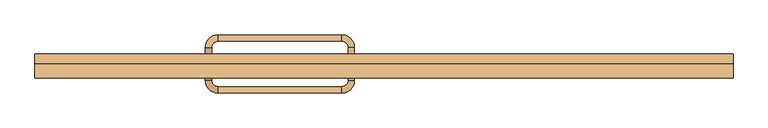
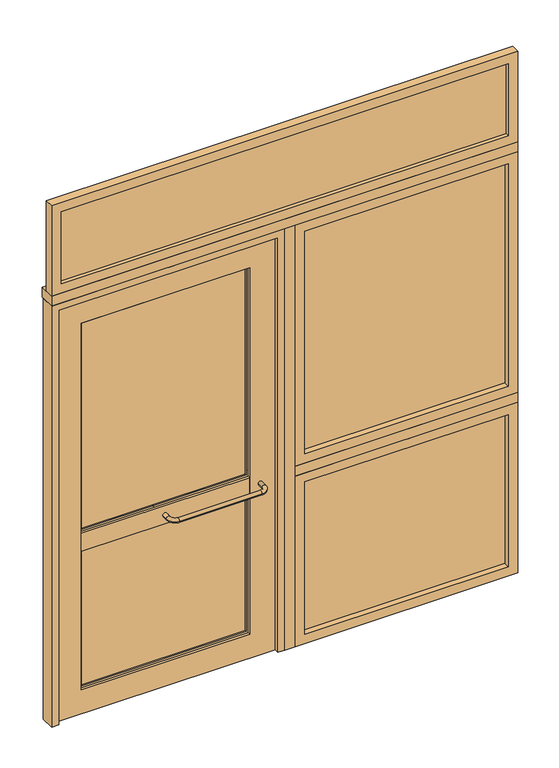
"""IFC4 building model written with IfcOpenShell, lengths in millimetres: door geometry, A2 Puerta batiente exterior con panel lateral VF superior : A2.1 Puerta batiente exterior con panel lateral 220x260."""

from ifc_helpers import new_model, si_unit, point, frame, origin, origin_with_axes, place, context, project, spatial, polyline, circle_curve, ellipse_curve, trimmed, outline, extrude, source, transform, mapped, element, save
from ifc_brep_helpers import plane_surface, cylinder_surface, revolved_surface, advanced_brep


def door_f8b2c67e(model_context):
    return source(origin(), model_context, "Body", "SolidModel", [
        advanced_brep(
        [(-113.0, 33.0, 855.0), (-93.0, 33.0, 855.0), (-93.0, 63.0, 855.0), (-113.0, 63.0, 855.0), (-133.0, 83.0, 855.0), (-133.0, 103.0, 855.0), (-523.0, 103.0, 855.0), (-523.0, 83.0, 855.0), (-543.0, 63.0, 855.0), (-563.0, 63.0, 855.0), (-543.0, 33.0, 855.0), (-563.0, 33.0, 855.0)],
        [
            (0, 1, circle_curve(frame((-103.0, 33.0, 855.0), z_axis=(0.0, -1.0, 0.0), x_axis=(1.0, 0.0, 0.0)), 10.0)),
            (1, 0, circle_curve(frame((-103.0, 33.0, 855.0), z_axis=(0.0, -1.0, 0.0), x_axis=(1.0, 0.0, 0.0)), 10.0)),
            (1, 2),
            (2, 3, circle_curve(frame((-103.0, 63.0, 855.0), z_axis=(0.0, -1.0, 0.0), x_axis=(1.0, 0.0, 0.0)), 10.0)),
            (3, 0),
            (3, 2, circle_curve(frame((-103.0, 63.0, 855.0), z_axis=(0.0, -1.0, 0.0), x_axis=(1.0, 0.0, 0.0)), 10.0)),
            (4, 3, circle_curve(frame((-133.0, 63.0, 855.0), z_axis=(0.0, 0.0, -1.0), x_axis=(1.0, 0.0, 0.0)), 20.0)),
            (2, 5, circle_curve(frame((-133.0, 63.0, 855.0), z_axis=(0.0, 0.0, 1.0), x_axis=(1.0, 0.0, 0.0)), 40.0)),
            (5, 4, circle_curve(frame((-133.0, 93.0, 855.0), z_axis=(1.0, 0.0, 0.0), x_axis=(0.0, 1.0, 0.0)), 10.0)),
            (4, 5, circle_curve(frame((-133.0, 93.0, 855.0), z_axis=(1.0, 0.0, 0.0), x_axis=(0.0, 1.0, 0.0)), 10.0)),
            (5, 6),
            (6, 7, circle_curve(frame((-523.0, 93.0, 855.0), z_axis=(1.0, 0.0, 0.0), x_axis=(0.0, 1.0, 0.0)), 10.0)),
            (7, 4),
            (7, 6, circle_curve(frame((-523.0, 93.0, 855.0), z_axis=(1.0, 0.0, 0.0), x_axis=(0.0, 1.0, 0.0)), 10.0)),
            (8, 7, circle_curve(frame((-523.0, 63.0, 855.0), z_axis=(0.0, 0.0, -1.0), x_axis=(0.0, 1.0, 0.0)), 20.0)),
            (6, 9, circle_curve(frame((-523.0, 63.0, 855.0), z_axis=(0.0, 0.0, 1.0), x_axis=(0.0, 1.0, 0.0)), 40.0)),
            (9, 8, circle_curve(frame((-553.0, 63.0, 855.0), z_axis=(0.0, 1.0, 0.0), x_axis=(-1.0, 0.0, 0.0)), 10.0)),
            (8, 9, circle_curve(frame((-553.0, 63.0, 855.0), z_axis=(0.0, 1.0, 0.0), x_axis=(-1.0, 0.0, 0.0)), 10.0)),
            (10, 11, circle_curve(frame((-553.0, 33.0, 855.0), z_axis=(0.0, -1.0, 0.0), x_axis=(-1.0, 0.0, 0.0)), 10.0)),
            (11, 10, circle_curve(frame((-553.0, 33.0, 855.0), z_axis=(0.0, -1.0, 0.0), x_axis=(-1.0, 0.0, 0.0)), 10.0)),
            (9, 11),
            (10, 8),
        ],
        [
            plane_surface(frame((-103.0, 33.0, 855.0), z_axis=(0.0, -1.0, 0.0), x_axis=(0.0, 0.0, 1.0))),
            cylinder_surface(frame((-103.0, 33.0, 855.0), z_axis=(0.0, -1.0, 0.0), x_axis=(1.0, 0.0, 0.0)), 10.0),
            revolved_surface(trimmed(ellipse_curve(frame((-103.0, 63.0, 855.0), z_axis=(0.0, -1.0, 0.0), x_axis=(1.0, 0.0, 0.0)), 10.0, 10.0), [point((-93.0, 63.0, 855.0))], [point((-113.0, 63.0, 855.0))], True, "CARTESIAN"), (-133.0, 63.0, 855.0), (0.0, 0.0, 1.0)),
            revolved_surface(trimmed(ellipse_curve(frame((-103.0, 63.0, 855.0), z_axis=(0.0, -1.0, 0.0), x_axis=(1.0, 0.0, 0.0)), 10.0, 10.0), [point((-113.0, 63.0, 855.0))], [point((-93.0, 63.0, 855.0))], True, "CARTESIAN"), (-133.0, 63.0, 855.0), (0.0, 0.0, 1.0)),
            cylinder_surface(frame((-133.0, 93.0, 855.0), z_axis=(1.0, 0.0, 0.0), x_axis=(0.0, 1.0, 0.0)), 10.0),
            revolved_surface(trimmed(ellipse_curve(frame((-523.0, 93.0, 855.0), z_axis=(1.0, 0.0, 0.0), x_axis=(0.0, 1.0, 0.0)), 10.0, 10.0), [point((-523.0, 103.0, 855.0))], [point((-523.0, 83.0, 855.0))], True, "CARTESIAN"), (-523.0, 63.0, 855.0), (0.0, 0.0, 1.0)),
            revolved_surface(trimmed(ellipse_curve(frame((-523.0, 93.0, 855.0), z_axis=(1.0, 0.0, 0.0), x_axis=(0.0, 1.0, 0.0)), 10.0, 10.0), [point((-523.0, 83.0, 855.0))], [point((-523.0, 103.0, 855.0))], True, "CARTESIAN"), (-523.0, 63.0, 855.0), (0.0, 0.0, 1.0)),
            plane_surface(frame((-553.0, 33.0, 855.0), z_axis=(0.0, -1.0, 0.0), x_axis=(0.0, 0.0, 1.0))),
            cylinder_surface(frame((-553.0, 63.0, 855.0), z_axis=(0.0, 1.0, 0.0), x_axis=(-1.0, 0.0, 0.0)), 10.0),
        ],
        [
            (0, [[1, 2]]),
            (1, [[-2, 3, 4, 5]]),
            (1, [[-1, -5, 6, -3]]),
            (2, [[7, -4, 8, 9]]),
            (3, [[-8, -6, -7, 10]]),
            (4, [[-9, 11, 12, 13]]),
            (4, [[-10, -13, 14, -11]]),
            (5, [[15, -12, 16, 17]]),
            (6, [[-16, -14, -15, 18]]),
            (7, [[19, 20]]),
            (8, [[-17, 21, -19, 22]]),
            (8, [[-18, -22, -20, -21]]),
        ],
    ),
        advanced_brep(
        [(-113.0, -11.0, 855.0), (-93.0, -11.0, 855.0), (-113.0, -41.0, 855.0), (-93.0, -41.0, 855.0), (-133.0, -61.0, 855.0), (-133.0, -81.0, 855.0), (-523.0, -61.0, 855.0), (-523.0, -81.0, 855.0), (-543.0, -41.0, 855.0), (-563.0, -41.0, 855.0), (-543.0, -11.0, 855.0), (-563.0, -11.0, 855.0)],
        [
            (0, 1, circle_curve(frame((-103.0, -11.0, 855.0), z_axis=(0.0, 1.0, 0.0), x_axis=(1.0, 0.0, 0.0)), 10.0)),
            (1, 0, circle_curve(frame((-103.0, -11.0, 855.0), z_axis=(0.0, 1.0, 0.0), x_axis=(1.0, 0.0, 0.0)), 10.0)),
            (0, 2),
            (2, 3, circle_curve(frame((-103.0, -41.0, 855.0), z_axis=(0.0, 1.0, 0.0), x_axis=(1.0, 0.0, 0.0)), 10.0)),
            (3, 1),
            (3, 2, circle_curve(frame((-103.0, -41.0, 855.0), z_axis=(0.0, 1.0, 0.0), x_axis=(1.0, 0.0, 0.0)), 10.0)),
            (4, 5, circle_curve(frame((-133.0, -71.0, 855.0), z_axis=(1.0, 0.0, 0.0), x_axis=(0.0, -1.0, 0.0)), 10.0)),
            (5, 3, circle_curve(frame((-133.0, -41.0, 855.0), z_axis=(0.0, 0.0, 1.0), x_axis=(1.0, 0.0, 0.0)), 40.0)),
            (2, 4, circle_curve(frame((-133.0, -41.0, 855.0), z_axis=(0.0, 0.0, -1.0), x_axis=(1.0, 0.0, 0.0)), 20.0)),
            (5, 4, circle_curve(frame((-133.0, -71.0, 855.0), z_axis=(1.0, 0.0, 0.0), x_axis=(0.0, -1.0, 0.0)), 10.0)),
            (4, 6),
            (6, 7, circle_curve(frame((-523.0, -71.0, 855.0), z_axis=(1.0, 0.0, 0.0), x_axis=(0.0, -1.0, 0.0)), 10.0)),
            (7, 5),
            (7, 6, circle_curve(frame((-523.0, -71.0, 855.0), z_axis=(1.0, 0.0, 0.0), x_axis=(0.0, -1.0, 0.0)), 10.0)),
            (8, 9, circle_curve(frame((-553.0, -41.0, 855.0), z_axis=(0.0, -1.0, 0.0), x_axis=(-1.0, 0.0, 0.0)), 10.0)),
            (9, 7, circle_curve(frame((-523.0, -41.0, 855.0), z_axis=(0.0, 0.0, 1.0), x_axis=(0.0, -1.0, 0.0)), 40.0)),
            (6, 8, circle_curve(frame((-523.0, -41.0, 855.0), z_axis=(0.0, 0.0, -1.0), x_axis=(0.0, -1.0, 0.0)), 20.0)),
            (9, 8, circle_curve(frame((-553.0, -41.0, 855.0), z_axis=(0.0, -1.0, 0.0), x_axis=(-1.0, 0.0, 0.0)), 10.0)),
            (10, 11, circle_curve(frame((-553.0, -11.0, 855.0), z_axis=(0.0, 1.0, 0.0), x_axis=(-1.0, 0.0, 0.0)), 10.0)),
            (11, 10, circle_curve(frame((-553.0, -11.0, 855.0), z_axis=(0.0, 1.0, 0.0), x_axis=(-1.0, 0.0, 0.0)), 10.0)),
            (8, 10),
            (11, 9),
        ],
        [
            plane_surface(frame((-103.0, -11.0, 855.0), z_axis=(0.0, 1.0, 0.0), x_axis=(0.0, 0.0, 1.0))),
            cylinder_surface(frame((-103.0, -11.0, 855.0), z_axis=(0.0, 1.0, 0.0), x_axis=(1.0, 0.0, 0.0)), 10.0),
            revolved_surface(trimmed(ellipse_curve(frame((-103.0, -41.0, 855.0), z_axis=(0.0, -1.0, 0.0), x_axis=(1.0, 0.0, 0.0)), 10.0, 10.0), [point((-93.0, -41.0, 855.0))], [point((-113.0, -41.0, 855.0))], True, "CARTESIAN"), (-133.0, -41.0, 855.0), (0.0, 0.0, 1.0)),
            revolved_surface(trimmed(ellipse_curve(frame((-103.0, -41.0, 855.0), z_axis=(0.0, -1.0, 0.0), x_axis=(1.0, 0.0, 0.0)), 10.0, 10.0), [point((-113.0, -41.0, 855.0))], [point((-93.0, -41.0, 855.0))], True, "CARTESIAN"), (-133.0, -41.0, 855.0), (0.0, 0.0, 1.0)),
            cylinder_surface(frame((-133.0, -71.0, 855.0), z_axis=(1.0, 0.0, 0.0), x_axis=(0.0, -1.0, 0.0)), 10.0),
            revolved_surface(trimmed(ellipse_curve(frame((-523.0, -71.0, 855.0), z_axis=(-1.0, 0.0, 0.0), x_axis=(0.0, -1.0, 0.0)), 10.0, 10.0), [point((-523.0, -81.0, 855.0))], [point((-523.0, -61.0, 855.0))], True, "CARTESIAN"), (-523.0, -41.0, 855.0), (0.0, 0.0, 1.0)),
            revolved_surface(trimmed(ellipse_curve(frame((-523.0, -71.0, 855.0), z_axis=(-1.0, 0.0, 0.0), x_axis=(0.0, -1.0, 0.0)), 10.0, 10.0), [point((-523.0, -61.0, 855.0))], [point((-523.0, -81.0, 855.0))], True, "CARTESIAN"), (-523.0, -41.0, 855.0), (0.0, 0.0, 1.0)),
            plane_surface(frame((-553.0, -11.0, 855.0), z_axis=(0.0, 1.0, 0.0), x_axis=(0.0, 0.0, 1.0))),
            cylinder_surface(frame((-553.0, -41.0, 855.0), z_axis=(0.0, -1.0, 0.0), x_axis=(-1.0, 0.0, 0.0)), 10.0),
        ],
        [
            (0, [[1, 2]]),
            (1, [[3, 4, 5, -1]]),
            (1, [[-5, 6, -3, -2]]),
            (2, [[7, 8, -4, 9]]),
            (3, [[10, -9, -6, -8]]),
            (4, [[11, 12, 13, -7]]),
            (4, [[-13, 14, -11, -10]]),
            (5, [[15, 16, -12, 17]]),
            (6, [[18, -17, -14, -16]]),
            (7, [[19, 20]]),
            (8, [[21, -20, 22, -15]]),
            (8, [[-22, -19, -21, -18]]),
        ],
    ),
        extrude(outline(polyline([(1055.0, -3.4019238), (95.0, -3.4019238), (95.0, 2.5980762), (1055.0, 2.5980762), (1055.0, -3.4019238)])), frame((0.0, 0.0, 45.0), z_axis=(0.0, 0.0, 1.0), x_axis=(1.0, 0.0, 0.0)), (0.0, 0.0, 1.0), 760.0),
        extrude(outline(polyline([(1055.0, -3.4019238), (95.0, -3.4019238), (95.0, 2.5980762), (1055.0, 2.5980762), (1055.0, -3.4019238)])), frame((0.0, 0.0, 945.0), z_axis=(0.0, 0.0, 1.0), x_axis=(1.0, 0.0, 0.0)), (0.0, 0.0, 1.0), 1110.0),
        extrude(outline(polyline([(850.0, 50.0), (0.0, 50.0), (0.0, 1100.0), (850.0, 1100.0), (850.0, 50.0)]), holes=[polyline([(805.0, 95.0), (805.0, 1055.0), (45.0, 1055.0), (45.0, 95.0), (805.0, 95.0)])]), frame((0.0, -33.0, 0.0), z_axis=(0.0, 1.0, 0.0), x_axis=(0.0, 0.0, 1.0)), (0.0, 0.0, 1.0), 66.0),
        extrude(outline(polyline([(2100.0, 50.0), (900.0, 50.0), (900.0, 1100.0), (2100.0, 1100.0), (2100.0, 50.0)]), holes=[polyline([(2055.0, 95.0), (2055.0, 1055.0), (945.0, 1055.0), (945.0, 95.0), (2055.0, 95.0)])]), frame((0.0, -33.0, 0.0), z_axis=(0.0, 1.0, 0.0), x_axis=(0.0, 0.0, 1.0)), (0.0, 0.0, 1.0), 66.0),
        extrude(outline(polyline([(1100.0, -33.0), (50.0, -33.0), (50.0, 42.0), (1100.0, 42.0), (1100.0, -33.0)])), frame((0.0, 0.0, 850.0), z_axis=(0.0, 0.0, 1.0), x_axis=(1.0, 0.0, 0.0)), (0.0, 0.0, 1.0), 50.0),
        extrude(outline(polyline([(50.0, -33.0), (0.0, -33.0), (0.0, 42.0), (50.0, 42.0), (50.0, -33.0)])), origin_with_axes(), (0.0, 0.0, 1.0), 2100.0),
        extrude(outline(polyline([(1055.0, -14.0), (-1055.0, -14.0), (-1055.0, -8.0), (1055.0, -8.0), (1055.0, -14.0)])), frame((0.0, 0.0, 2195.0), z_axis=(0.0, 0.0, 1.0), x_axis=(1.0, 0.0, 0.0)), (0.0, 0.0, 1.0), 360.0),
        extrude(outline(polyline([(2600.0, -1100.0), (2150.0, -1100.0), (2150.0, 1100.0), (2600.0, 1100.0), (2600.0, -1100.0)]), holes=[polyline([(2555.0, -1055.0), (2555.0, 1055.0), (2195.0, 1055.0), (2195.0, -1055.0), (2555.0, -1055.0)])]), frame((0.0, -33.0, 0.0), z_axis=(0.0, 1.0, 0.0), x_axis=(0.0, 0.0, 1.0)), (0.0, 0.0, 1.0), 44.0),
        extrude(outline(polyline([(-163.0, 8.0), (-937.0, 8.0), (-937.0, 14.0), (-163.0, 14.0), (-163.0, 8.0)])), frame((0.0, 0.0, 910.0), z_axis=(0.0, 0.0, 1.0), x_axis=(1.0, 0.0, 0.0)), (0.0, 0.0, 1.0), 1027.0),
        extrude(outline(polyline([(-163.0, 8.0), (-937.0, 8.0), (-937.0, 14.0), (-163.0, 14.0), (-163.0, 8.0)])), frame((0.0, 0.0, 130.0), z_axis=(0.0, 0.0, 1.0), x_axis=(1.0, 0.0, 0.0)), (0.0, 0.0, 1.0), 670.0),
        extrude(outline(polyline([(1947.0, -947.0), (900.0, -947.0), (900.0, -153.0), (1947.0, -153.0), (1947.0, -947.0)]), holes=[polyline([(1937.0, -937.0), (1937.0, -163.0), (910.0, -163.0), (910.0, -937.0), (1937.0, -937.0)])]), frame((0.0, 1.0, 0.0), z_axis=(0.0, 1.0, 0.0), x_axis=(0.0, 0.0, 1.0)), (0.0, 0.0, 1.0), 20.0),
        extrude(outline(polyline([(810.0, -947.0), (120.0, -947.0), (120.0, -153.0), (810.0, -153.0), (810.0, -947.0)]), holes=[polyline([(800.0, -937.0), (800.0, -163.0), (130.0, -163.0), (130.0, -937.0), (800.0, -937.0)])]), frame((0.0, 1.0, 0.0), z_axis=(0.0, 1.0, 0.0), x_axis=(0.0, 0.0, 1.0)), (0.0, 0.0, 1.0), 20.0),
        extrude(outline(polyline([(-153.0, -11.0), (-947.0, -11.0), (-947.0, 33.0), (-153.0, 33.0), (-153.0, -11.0)])), frame((0.0, 0.0, 810.0), z_axis=(0.0, 0.0, 1.0), x_axis=(1.0, 0.0, 0.0)), (0.0, 0.0, 1.0), 90.0),
        extrude(outline(polyline([(2067.0, -1067.0), (0.0, -1067.0), (0.0, -33.0), (2067.0, -33.0), (2067.0, -1067.0)]), holes=[polyline([(1947.0, -947.0), (1947.0, -153.0), (120.0, -153.0), (120.0, -947.0), (1947.0, -947.0)])]), frame((0.0, -11.0, 0.0), z_axis=(0.0, 1.0, 0.0), x_axis=(0.0, 0.0, 1.0)), (0.0, 0.0, 1.0), 44.0),
        extrude(outline(polyline([(2100.0, 0.0), (2100.0, -1100.0), (0.0, -1100.0), (0.0, -1067.0), (2067.0, -1067.0), (2067.0, -33.0), (0.0, -33.0), (0.0, 0.0), (2100.0, 0.0)])), frame((0.0, -33.0, 0.0), z_axis=(0.0, 1.0, 0.0), x_axis=(0.0, 0.0, 1.0)), (0.0, 0.0, 1.0), 66.0),
        extrude(outline(polyline([(1100.0, -33.0), (-1100.0, -33.0), (-1100.0, 42.0), (1100.0, 42.0), (1100.0, -33.0)])), frame((0.0, 0.0, 2100.0), z_axis=(0.0, 0.0, 1.0), x_axis=(1.0, 0.0, 0.0)), (0.0, 0.0, 1.0), 50.0),
    ])


if __name__ == "__main__":
    model = new_model("IFC4")
    model_context = context("Model", 3, world=origin())
    ifc_project = project(units=[si_unit("LENGTHUNIT", "METRE", prefix="MILLI")], contexts=[model_context])
    site = spatial("IfcSite", under=ifc_project)
    building = spatial("IfcBuilding", under=site)
    placement = place(None, origin())
    door_shape = door_f8b2c67e(model_context)
    element("IfcDoor", 1, ObjectType="A2 Puerta batiente exterior con panel lateral VF superior : A2.1 Puerta batiente exterior con panel lateral 220x260", at=placement, inside=building, context=model_context, shape_type="MappedRepresentation", body=[
        mapped(door_shape, transform((0.0, 0.0, 0.0), x_axis=(1.0, 0.0, 0.0), y_axis=(0.0, 1.0, 0.0), z_axis=(0.0, 0.0, 1.0))),
    ])
    save(model, "model.ifc")
